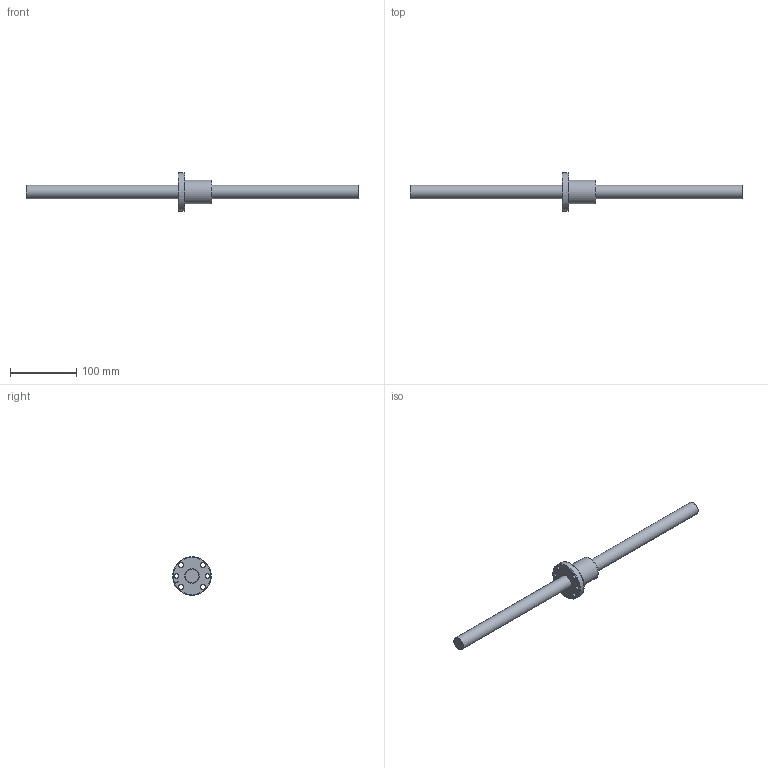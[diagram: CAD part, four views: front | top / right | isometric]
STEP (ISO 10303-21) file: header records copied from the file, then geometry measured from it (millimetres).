
FILE_DESCRIPTION (( 'STEP AP203' ), '1' );
FILE_NAME ('SFNU02005N-4.step', '2024-05-10T06:59:59', ( '' ), ( '' ), 'SwSTEP 2.0', 'SolidWorks 2022', '' );
FILE_SCHEMA (( 'CONFIG_CONTROL_DESIGN' ));
Length unit declared in the file: millimetre
Products named in the file (1): SFNU02005N-4
Bounding box: 500 x 58 x 58 mm (x, y, z)
Volume: 202873.4 mm3; surface area: 47381.8 mm2
Topology: 2 solids, 2 shells, 45 faces, 111 edges, 71 vertices
Faces by surface type: cylinder 18, cone 13, plane 6, bspline 5, torus 3
Full cylindrical faces by diameter (mm): 4 x1, 5 x6, 6.6 x6, 20 x1, 22.1 x1, 36 x1, 58 x1
Entity records: 2707 total; most frequent: CARTESIAN_POINT 1912, DIRECTION 148, ORIENTED_EDGE 102, EDGE_LOOP 84, AXIS2_PLACEMENT_3D 72, FACE_OUTER_BOUND 54, EDGE_CURVE 51, VERTEX_POINT 47
